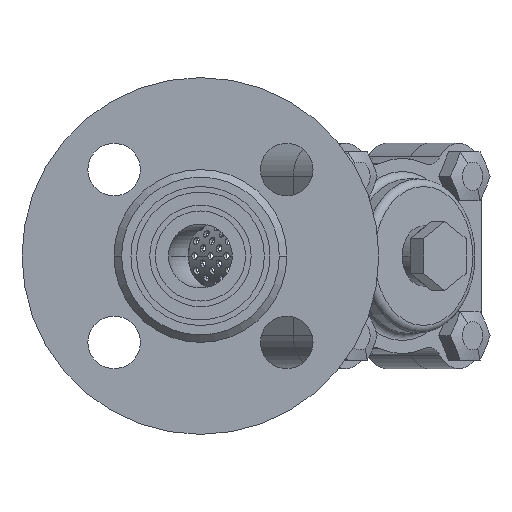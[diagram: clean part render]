
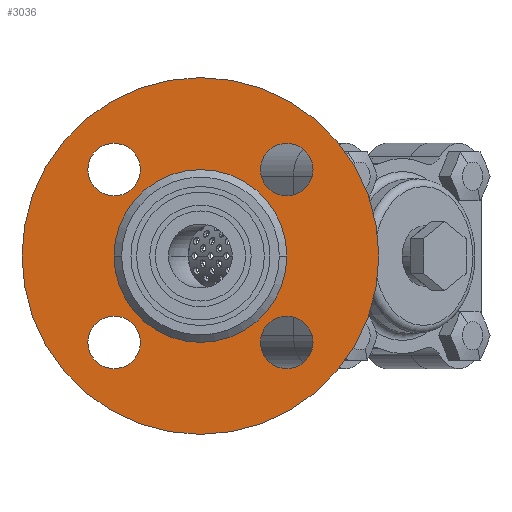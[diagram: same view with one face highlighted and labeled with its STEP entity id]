
A CAD part, left-side view. The second image highlights one B-rep face of the part: STEP entity #3036.
In plain terms, the highlighted planar face has unit normal (-1, 0, 0).
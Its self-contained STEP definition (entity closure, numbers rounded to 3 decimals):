
#644=CARTESIAN_POINT('',(-63.,0.,0.));
#645=DIRECTION('',(-1.,0.,0.));
#646=DIRECTION('',(0.,1.,0.));
#647=AXIS2_PLACEMENT_3D('',#644,#645,#646);
#649=CARTESIAN_POINT('',(-63.,0.,0.));
#650=DIRECTION('',(-1.,0.,0.));
#651=DIRECTION('',(0.,-1.,0.));
#652=AXIS2_PLACEMENT_3D('',#649,#650,#651);
#654=CARTESIAN_POINT('',(-63.,0.,0.));
#655=DIRECTION('',(-1.,0.,0.));
#656=DIRECTION('',(0.,1.,0.));
#657=AXIS2_PLACEMENT_3D('',#654,#655,#656);
#659=CARTESIAN_POINT('',(-63.,0.,0.));
#660=DIRECTION('',(-1.,0.,0.));
#661=DIRECTION('',(0.,-1.,0.));
#662=AXIS2_PLACEMENT_3D('',#659,#660,#661);
#664=CARTESIAN_POINT('',(-63.,-22.981,-22.981));
#665=DIRECTION('',(-1.,0.,0.));
#666=DIRECTION('',(0.,1.,0.));
#667=AXIS2_PLACEMENT_3D('',#664,#665,#666);
#669=CARTESIAN_POINT('',(-63.,-22.981,-22.981));
#670=DIRECTION('',(-1.,0.,0.));
#671=DIRECTION('',(0.,-1.,0.));
#672=AXIS2_PLACEMENT_3D('',#669,#670,#671);
#674=CARTESIAN_POINT('',(-63.,-22.981,22.981));
#675=DIRECTION('',(-1.,0.,0.));
#676=DIRECTION('',(0.,0.,-1.));
#677=AXIS2_PLACEMENT_3D('',#674,#675,#676);
#679=CARTESIAN_POINT('',(-63.,-22.981,22.981));
#680=DIRECTION('',(-1.,0.,0.));
#681=DIRECTION('',(0.,0.,1.));
#682=AXIS2_PLACEMENT_3D('',#679,#680,#681);
#684=CARTESIAN_POINT('',(-63.,22.981,22.981));
#685=DIRECTION('',(-1.,0.,0.));
#686=DIRECTION('',(0.,-1.,0.));
#687=AXIS2_PLACEMENT_3D('',#684,#685,#686);
#689=CARTESIAN_POINT('',(-63.,22.981,22.981));
#690=DIRECTION('',(-1.,0.,0.));
#691=DIRECTION('',(0.,1.,0.));
#692=AXIS2_PLACEMENT_3D('',#689,#690,#691);
#694=CARTESIAN_POINT('',(-63.,22.981,-22.981));
#695=DIRECTION('',(-1.,0.,0.));
#696=DIRECTION('',(0.,0.,1.));
#697=AXIS2_PLACEMENT_3D('',#694,#695,#696);
#699=CARTESIAN_POINT('',(-63.,22.981,-22.981));
#700=DIRECTION('',(-1.,0.,0.));
#701=DIRECTION('',(0.,0.,-1.));
#702=AXIS2_PLACEMENT_3D('',#699,#700,#701);
#1585=CARTESIAN_POINT('',(-63.,47.5,0.));
#1586=CARTESIAN_POINT('',(-63.,-47.5,0.));
#1587=VERTEX_POINT('',#1585);
#1588=VERTEX_POINT('',#1586);
#1597=CARTESIAN_POINT('',(-63.,23.,0.));
#1598=CARTESIAN_POINT('',(-63.,-23.,0.));
#1599=VERTEX_POINT('',#1597);
#1600=VERTEX_POINT('',#1598);
#1633=CARTESIAN_POINT('',(-63.,-15.981,-22.981));
#1634=CARTESIAN_POINT('',(-63.,-29.981,-22.981));
#1635=VERTEX_POINT('',#1633);
#1636=VERTEX_POINT('',#1634);
#1641=CARTESIAN_POINT('',(-63.,-22.981,15.981));
#1642=CARTESIAN_POINT('',(-63.,-22.981,29.981));
#1643=VERTEX_POINT('',#1641);
#1644=VERTEX_POINT('',#1642);
#1649=CARTESIAN_POINT('',(-63.,15.981,22.981));
#1650=CARTESIAN_POINT('',(-63.,29.981,22.981));
#1651=VERTEX_POINT('',#1649);
#1652=VERTEX_POINT('',#1650);
#1657=CARTESIAN_POINT('',(-63.,22.981,-15.981));
#1658=CARTESIAN_POINT('',(-63.,22.981,-29.981));
#1659=VERTEX_POINT('',#1657);
#1660=VERTEX_POINT('',#1658);
#2996=CARTESIAN_POINT('',(-63.,0.,0.));
#2997=DIRECTION('',(-1.,0.,0.));
#2998=DIRECTION('',(0.,1.,0.));
#2999=AXIS2_PLACEMENT_3D('',#2996,#2997,#2998);
#3000=PLANE('',#2999);
#3001=ORIENTED_EDGE('',*,*,#2986,.F.);
#3003=ORIENTED_EDGE('',*,*,#3002,.F.);
#3004=EDGE_LOOP('',(#3001,#3003));
#3005=FACE_OUTER_BOUND('',#3004,.F.);
#3007=ORIENTED_EDGE('',*,*,#3006,.T.);
#3009=ORIENTED_EDGE('',*,*,#3008,.T.);
#3010=EDGE_LOOP('',(#3007,#3009));
#3011=FACE_BOUND('',#3010,.F.);
#3013=ORIENTED_EDGE('',*,*,#3012,.T.);
#3015=ORIENTED_EDGE('',*,*,#3014,.T.);
#3016=EDGE_LOOP('',(#3013,#3015));
#3017=FACE_BOUND('',#3016,.F.);
#3019=ORIENTED_EDGE('',*,*,#3018,.T.);
#3021=ORIENTED_EDGE('',*,*,#3020,.T.);
#3022=EDGE_LOOP('',(#3019,#3021));
#3023=FACE_BOUND('',#3022,.F.);
#3025=ORIENTED_EDGE('',*,*,#3024,.T.);
#3027=ORIENTED_EDGE('',*,*,#3026,.T.);
#3028=EDGE_LOOP('',(#3025,#3027));
#3029=FACE_BOUND('',#3028,.F.);
#3031=ORIENTED_EDGE('',*,*,#3030,.T.);
#3033=ORIENTED_EDGE('',*,*,#3032,.T.);
#3034=EDGE_LOOP('',(#3031,#3033));
#3035=FACE_BOUND('',#3034,.F.);
#3036=ADVANCED_FACE('',(#3005,#3011,#3017,#3023,#3029,#3035),#3000,.T.);
#648=CIRCLE('',#647,47.5);
#653=CIRCLE('',#652,47.5);
#658=CIRCLE('',#657,23.);
#663=CIRCLE('',#662,23.);
#668=CIRCLE('',#667,7.);
#673=CIRCLE('',#672,7.);
#678=CIRCLE('',#677,7.);
#683=CIRCLE('',#682,7.);
#688=CIRCLE('',#687,7.);
#693=CIRCLE('',#692,7.);
#698=CIRCLE('',#697,7.);
#703=CIRCLE('',#702,7.);
#2986=EDGE_CURVE('',#1587,#1588,#648,.T.);
#3002=EDGE_CURVE('',#1588,#1587,#653,.T.);
#3006=EDGE_CURVE('',#1599,#1600,#658,.T.);
#3008=EDGE_CURVE('',#1600,#1599,#663,.T.);
#3012=EDGE_CURVE('',#1635,#1636,#668,.T.);
#3014=EDGE_CURVE('',#1636,#1635,#673,.T.);
#3018=EDGE_CURVE('',#1643,#1644,#678,.T.);
#3020=EDGE_CURVE('',#1644,#1643,#683,.T.);
#3024=EDGE_CURVE('',#1651,#1652,#688,.T.);
#3026=EDGE_CURVE('',#1652,#1651,#693,.T.);
#3030=EDGE_CURVE('',#1659,#1660,#698,.T.);
#3032=EDGE_CURVE('',#1660,#1659,#703,.T.);
